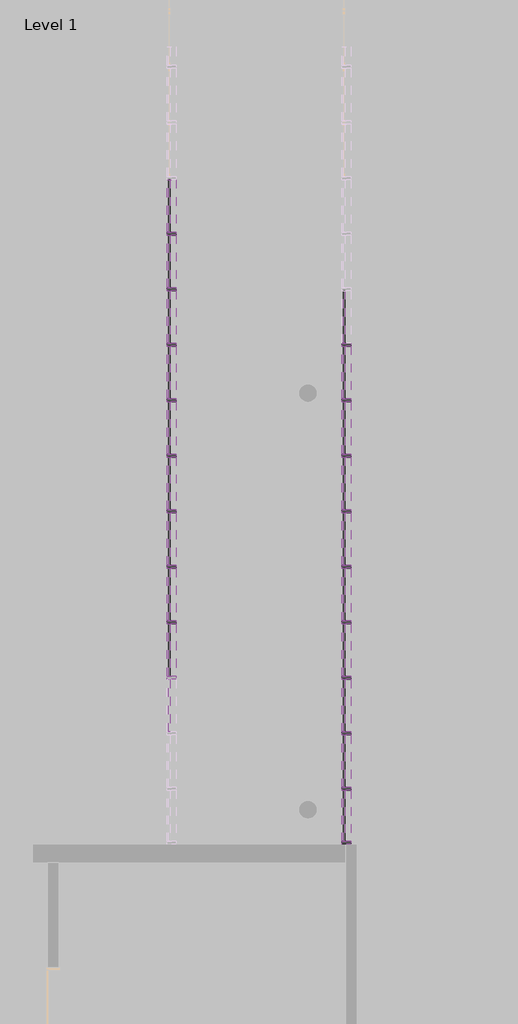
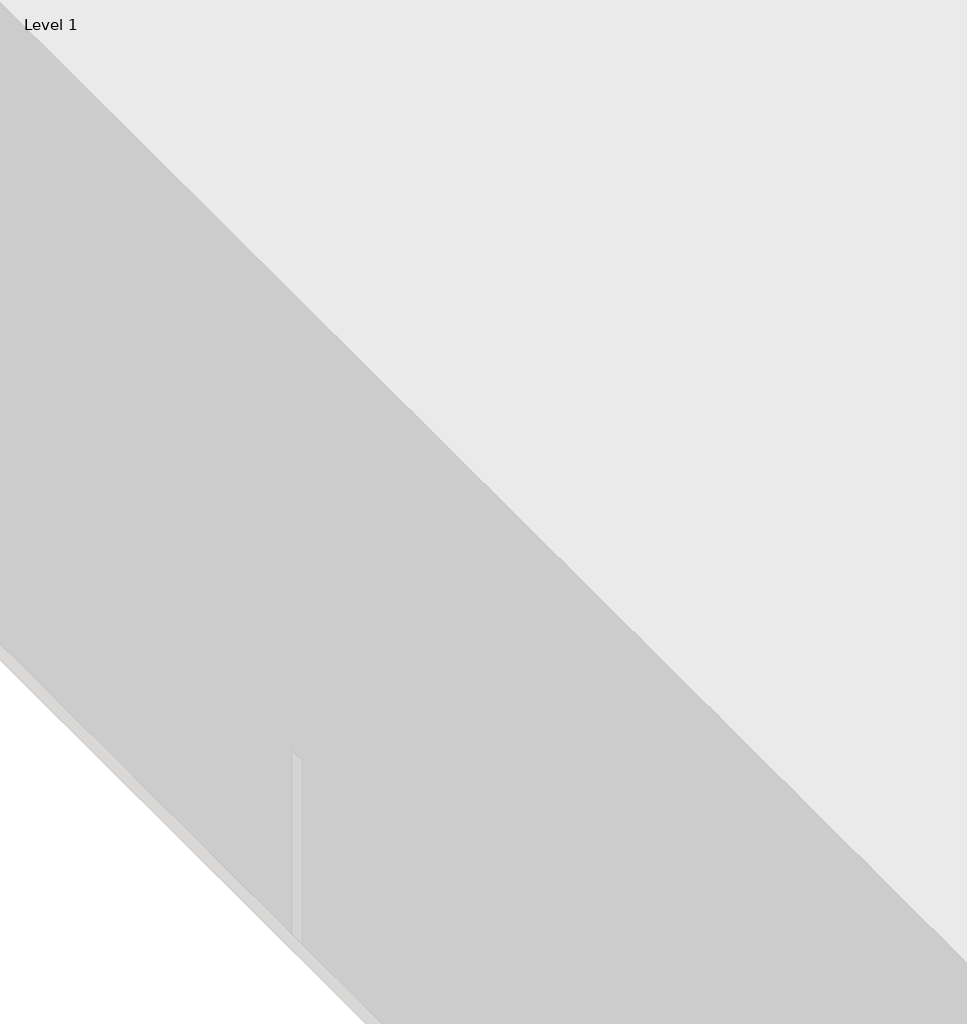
# One storey, part 10 of 18: 90 members, 39 plates.
"""IFC4 building model written with IfcOpenShell, lengths in millimetres."""

from ifc_helpers import new_model, si_unit, origin, place, context, project, spatial, transform, mapped, element, save
from components import rectangular_mullion_50mm_x_150mm_3fa3ad65, rectangular_mullion_50mm_x_150mm_d427b131, rectangular_mullion_50mm_x_150mm_d8a63713, rectangular_mullion_50mm_x_150mm_a28728bf, rectangular_mullion_50mm_x_150mm_a376ce0f, rectangular_mullion_50mm_x_150mm_4471a7bc, rectangular_mullion_50mm_x_150mm_22af440f, rectangular_mullion_50mm_x_150mm_0f59f38f, system_panel_glazed_aa3f7126, system_panel_glazed_37b7c907, system_panel_glazed_7c3f78ea, system_panel_glazed_1f05e993

model = new_model("IFC4")

# Units and contexts
model_context = context("Model", 3, world=origin())
ifc_project = project(units=[si_unit("LENGTHUNIT", "METRE", prefix="MILLI")], contexts=[model_context])

# Site, building, storey
site = spatial("IfcSite", under=ifc_project)
building = spatial("IfcBuilding", under=site)
storey = spatial("IfcBuildingStorey", under=building, Name="Level 1", Elevation=0.0)

# Members
placement = place(None, origin())
rectangular_mullion_50mm_x_150mm_shape = rectangular_mullion_50mm_x_150mm_3fa3ad65(model_context)
element("IfcMember", 1, ObjectType="Rectangular Mullion : 50mm x 150mm", at=placement, inside=storey, context=model_context, shape_type="MappedRepresentation", body=[
    mapped(rectangular_mullion_50mm_x_150mm_shape, transform((-1903.8386635, 5072.5799804, 3550.0), x_axis=(0.0, 0.0, 1.0), y_axis=(-1.0, 0.0, 0.0), z_axis=(0.0, -1.0, 0.0))),
])
rectangular_mullion_50mm_x_150mm_2_shape = rectangular_mullion_50mm_x_150mm_d427b131(model_context)
element("IfcMember", 2, ObjectType="Rectangular Mullion : 50mm x 150mm", at=placement, inside=storey, context=model_context, shape_type="MappedRepresentation", body=[
    mapped(rectangular_mullion_50mm_x_150mm_2_shape, transform((-1903.8386635, 13336.1062962, 3550.0), x_axis=(0.0, 0.0, 1.0), y_axis=(-1.0, 0.0, 0.0), z_axis=(0.0, -1.0, 0.0))),
])
element("IfcMember", 3, ObjectType="Rectangular Mullion : 50mm x 150mm", at=placement, inside=storey, context=model_context, shape_type="MappedRepresentation", body=[
    mapped(rectangular_mullion_50mm_x_150mm_2_shape, transform((-1903.8386635, 12415.1589278, 3550.0), x_axis=(0.0, 0.0, 1.0), y_axis=(-1.0, 0.0, 0.0), z_axis=(0.0, -1.0, 0.0))),
])
element("IfcMember", 4, ObjectType="Rectangular Mullion : 50mm x 150mm", at=placement, inside=storey, context=model_context, shape_type="MappedRepresentation", body=[
    mapped(rectangular_mullion_50mm_x_150mm_2_shape, transform((-1903.8386635, 11494.2115594, 3550.0), x_axis=(0.0, 0.0, 1.0), y_axis=(-1.0, 0.0, 0.0), z_axis=(0.0, -1.0, 0.0))),
])
element("IfcMember", 5, ObjectType="Rectangular Mullion : 50mm x 150mm", at=placement, inside=storey, context=model_context, shape_type="MappedRepresentation", body=[
    mapped(rectangular_mullion_50mm_x_150mm_2_shape, transform((-1903.8386635, 10573.264191, 3550.0), x_axis=(0.0, 0.0, 1.0), y_axis=(-1.0, 0.0, 0.0), z_axis=(0.0, -1.0, 0.0))),
])
element("IfcMember", 6, ObjectType="Rectangular Mullion : 50mm x 150mm", at=placement, inside=storey, context=model_context, shape_type="MappedRepresentation", body=[
    mapped(rectangular_mullion_50mm_x_150mm_2_shape, transform((-1903.8386635, 9652.3168226, 3550.0), x_axis=(0.0, 0.0, 1.0), y_axis=(-1.0, 0.0, 0.0), z_axis=(0.0, -1.0, 0.0))),
])
element("IfcMember", 7, ObjectType="Rectangular Mullion : 50mm x 150mm", at=placement, inside=storey, context=model_context, shape_type="MappedRepresentation", body=[
    mapped(rectangular_mullion_50mm_x_150mm_2_shape, transform((-1903.8386635, 8731.3694542, 3550.0), x_axis=(0.0, 0.0, 1.0), y_axis=(-1.0, 0.0, 0.0), z_axis=(0.0, -1.0, 0.0))),
])
element("IfcMember", 8, ObjectType="Rectangular Mullion : 50mm x 150mm", at=placement, inside=storey, context=model_context, shape_type="MappedRepresentation", body=[
    mapped(rectangular_mullion_50mm_x_150mm_2_shape, transform((-1903.8386635, 7810.4220859, 3550.0), x_axis=(0.0, 0.0, 1.0), y_axis=(-1.0, 0.0, 0.0), z_axis=(0.0, -1.0, 0.0))),
])
element("IfcMember", 9, ObjectType="Rectangular Mullion : 50mm x 150mm", at=placement, inside=storey, context=model_context, shape_type="MappedRepresentation", body=[
    mapped(rectangular_mullion_50mm_x_150mm_2_shape, transform((-1903.8386635, 6889.4747175, 3550.0), x_axis=(0.0, 0.0, 1.0), y_axis=(-1.0, 0.0, 0.0), z_axis=(0.0, -1.0, 0.0))),
])
element("IfcMember", 10, ObjectType="Rectangular Mullion : 50mm x 150mm", at=placement, inside=storey, context=model_context, shape_type="MappedRepresentation", body=[
    mapped(rectangular_mullion_50mm_x_150mm_2_shape, transform((-1903.8386635, 5968.5273491, 3550.0), x_axis=(0.0, 0.0, 1.0), y_axis=(-1.0, 0.0, 0.0), z_axis=(0.0, -1.0, 0.0))),
])
element("IfcMember", 11, ObjectType="Rectangular Mullion : 50mm x 150mm", at=placement, inside=storey, context=model_context, shape_type="MappedRepresentation", body=[
    mapped(rectangular_mullion_50mm_x_150mm_2_shape, transform((-4803.8386635, 15178.001033, 3550.0), x_axis=(0.0, 0.0, 1.0), y_axis=(-1.0, 0.0, 0.0), z_axis=(0.0, -1.0, 0.0))),
])
element("IfcMember", 12, ObjectType="Rectangular Mullion : 50mm x 150mm", at=placement, inside=storey, context=model_context, shape_type="MappedRepresentation", body=[
    mapped(rectangular_mullion_50mm_x_150mm_2_shape, transform((-4803.8386635, 14257.0536646, 3550.0), x_axis=(0.0, 0.0, 1.0), y_axis=(-1.0, 0.0, 0.0), z_axis=(0.0, -1.0, 0.0))),
])
element("IfcMember", 13, ObjectType="Rectangular Mullion : 50mm x 150mm", at=placement, inside=storey, context=model_context, shape_type="MappedRepresentation", body=[
    mapped(rectangular_mullion_50mm_x_150mm_2_shape, transform((-4803.8386635, 13336.1062962, 3550.0), x_axis=(0.0, 0.0, 1.0), y_axis=(-1.0, 0.0, 0.0), z_axis=(0.0, -1.0, 0.0))),
])
element("IfcMember", 14, ObjectType="Rectangular Mullion : 50mm x 150mm", at=placement, inside=storey, context=model_context, shape_type="MappedRepresentation", body=[
    mapped(rectangular_mullion_50mm_x_150mm_2_shape, transform((-4803.8386635, 12415.1589278, 3550.0), x_axis=(0.0, 0.0, 1.0), y_axis=(-1.0, 0.0, 0.0), z_axis=(0.0, -1.0, 0.0))),
])
element("IfcMember", 15, ObjectType="Rectangular Mullion : 50mm x 150mm", at=placement, inside=storey, context=model_context, shape_type="MappedRepresentation", body=[
    mapped(rectangular_mullion_50mm_x_150mm_2_shape, transform((-4803.8386635, 11494.2115594, 3550.0), x_axis=(0.0, 0.0, 1.0), y_axis=(-1.0, 0.0, 0.0), z_axis=(0.0, -1.0, 0.0))),
])
element("IfcMember", 16, ObjectType="Rectangular Mullion : 50mm x 150mm", at=placement, inside=storey, context=model_context, shape_type="MappedRepresentation", body=[
    mapped(rectangular_mullion_50mm_x_150mm_2_shape, transform((-4803.8386635, 10573.264191, 3550.0), x_axis=(0.0, 0.0, 1.0), y_axis=(-1.0, 0.0, 0.0), z_axis=(0.0, -1.0, 0.0))),
])
element("IfcMember", 17, ObjectType="Rectangular Mullion : 50mm x 150mm", at=placement, inside=storey, context=model_context, shape_type="MappedRepresentation", body=[
    mapped(rectangular_mullion_50mm_x_150mm_2_shape, transform((-4803.8386635, 9652.3168226, 3550.0), x_axis=(0.0, 0.0, 1.0), y_axis=(-1.0, 0.0, 0.0), z_axis=(0.0, -1.0, 0.0))),
])
element("IfcMember", 18, ObjectType="Rectangular Mullion : 50mm x 150mm", at=placement, inside=storey, context=model_context, shape_type="MappedRepresentation", body=[
    mapped(rectangular_mullion_50mm_x_150mm_2_shape, transform((-4803.8386635, 8731.3694542, 3550.0), x_axis=(0.0, 0.0, 1.0), y_axis=(-1.0, 0.0, 0.0), z_axis=(0.0, -1.0, 0.0))),
])
element("IfcMember", 19, ObjectType="Rectangular Mullion : 50mm x 150mm", at=placement, inside=storey, context=model_context, shape_type="MappedRepresentation", body=[
    mapped(rectangular_mullion_50mm_x_150mm_2_shape, transform((-1903.8386635, 13286.1062962, 0.0), x_axis=(0.0, 0.0, -1.0), y_axis=(-1.0, 0.0, 0.0), z_axis=(0.0, 1.0, 0.0))),
])
element("IfcMember", 20, ObjectType="Rectangular Mullion : 50mm x 150mm", at=placement, inside=storey, context=model_context, shape_type="MappedRepresentation", body=[
    mapped(rectangular_mullion_50mm_x_150mm_2_shape, transform((-1903.8386635, 12365.1589278, 0.0), x_axis=(0.0, 0.0, -1.0), y_axis=(-1.0, 0.0, 0.0), z_axis=(0.0, 1.0, 0.0))),
])
element("IfcMember", 21, ObjectType="Rectangular Mullion : 50mm x 150mm", at=placement, inside=storey, context=model_context, shape_type="MappedRepresentation", body=[
    mapped(rectangular_mullion_50mm_x_150mm_2_shape, transform((-1903.8386635, 11444.2115594, 0.0), x_axis=(0.0, 0.0, -1.0), y_axis=(-1.0, 0.0, 0.0), z_axis=(0.0, 1.0, 0.0))),
])
element("IfcMember", 22, ObjectType="Rectangular Mullion : 50mm x 150mm", at=placement, inside=storey, context=model_context, shape_type="MappedRepresentation", body=[
    mapped(rectangular_mullion_50mm_x_150mm_2_shape, transform((-1903.8386635, 10523.264191, 0.0), x_axis=(0.0, 0.0, -1.0), y_axis=(-1.0, 0.0, 0.0), z_axis=(0.0, 1.0, 0.0))),
])
element("IfcMember", 23, ObjectType="Rectangular Mullion : 50mm x 150mm", at=placement, inside=storey, context=model_context, shape_type="MappedRepresentation", body=[
    mapped(rectangular_mullion_50mm_x_150mm_2_shape, transform((-1903.8386635, 9602.3168226, 0.0), x_axis=(0.0, 0.0, -1.0), y_axis=(-1.0, 0.0, 0.0), z_axis=(0.0, 1.0, 0.0))),
])
element("IfcMember", 24, ObjectType="Rectangular Mullion : 50mm x 150mm", at=placement, inside=storey, context=model_context, shape_type="MappedRepresentation", body=[
    mapped(rectangular_mullion_50mm_x_150mm_2_shape, transform((-1903.8386635, 8681.3694542, 0.0), x_axis=(0.0, 0.0, -1.0), y_axis=(-1.0, 0.0, 0.0), z_axis=(0.0, 1.0, 0.0))),
])
element("IfcMember", 25, ObjectType="Rectangular Mullion : 50mm x 150mm", at=placement, inside=storey, context=model_context, shape_type="MappedRepresentation", body=[
    mapped(rectangular_mullion_50mm_x_150mm_2_shape, transform((-1903.8386635, 7760.4220859, 0.0), x_axis=(0.0, 0.0, -1.0), y_axis=(-1.0, 0.0, 0.0), z_axis=(0.0, 1.0, 0.0))),
])
element("IfcMember", 26, ObjectType="Rectangular Mullion : 50mm x 150mm", at=placement, inside=storey, context=model_context, shape_type="MappedRepresentation", body=[
    mapped(rectangular_mullion_50mm_x_150mm_2_shape, transform((-1903.8386635, 6839.4747175, 0.0), x_axis=(0.0, 0.0, -1.0), y_axis=(-1.0, 0.0, 0.0), z_axis=(0.0, 1.0, 0.0))),
])
element("IfcMember", 27, ObjectType="Rectangular Mullion : 50mm x 150mm", at=placement, inside=storey, context=model_context, shape_type="MappedRepresentation", body=[
    mapped(rectangular_mullion_50mm_x_150mm_2_shape, transform((-4803.8386635, 15128.001033, 0.0), x_axis=(0.0, 0.0, -1.0), y_axis=(-1.0, 0.0, 0.0), z_axis=(0.0, 1.0, 0.0))),
])
element("IfcMember", 28, ObjectType="Rectangular Mullion : 50mm x 150mm", at=placement, inside=storey, context=model_context, shape_type="MappedRepresentation", body=[
    mapped(rectangular_mullion_50mm_x_150mm_2_shape, transform((-4803.8386635, 14207.0536646, 0.0), x_axis=(0.0, 0.0, -1.0), y_axis=(-1.0, 0.0, 0.0), z_axis=(0.0, 1.0, 0.0))),
])
element("IfcMember", 29, ObjectType="Rectangular Mullion : 50mm x 150mm", at=placement, inside=storey, context=model_context, shape_type="MappedRepresentation", body=[
    mapped(rectangular_mullion_50mm_x_150mm_2_shape, transform((-4803.8386635, 13286.1062962, 0.0), x_axis=(0.0, 0.0, -1.0), y_axis=(-1.0, 0.0, 0.0), z_axis=(0.0, 1.0, 0.0))),
])
element("IfcMember", 30, ObjectType="Rectangular Mullion : 50mm x 150mm", at=placement, inside=storey, context=model_context, shape_type="MappedRepresentation", body=[
    mapped(rectangular_mullion_50mm_x_150mm_2_shape, transform((-4803.8386635, 12365.1589278, 0.0), x_axis=(0.0, 0.0, -1.0), y_axis=(-1.0, 0.0, 0.0), z_axis=(0.0, 1.0, 0.0))),
])
element("IfcMember", 31, ObjectType="Rectangular Mullion : 50mm x 150mm", at=placement, inside=storey, context=model_context, shape_type="MappedRepresentation", body=[
    mapped(rectangular_mullion_50mm_x_150mm_2_shape, transform((-4803.8386635, 11444.2115594, 0.0), x_axis=(0.0, 0.0, -1.0), y_axis=(-1.0, 0.0, 0.0), z_axis=(0.0, 1.0, 0.0))),
])
element("IfcMember", 32, ObjectType="Rectangular Mullion : 50mm x 150mm", at=placement, inside=storey, context=model_context, shape_type="MappedRepresentation", body=[
    mapped(rectangular_mullion_50mm_x_150mm_2_shape, transform((-4803.8386635, 10523.264191, 0.0), x_axis=(0.0, 0.0, -1.0), y_axis=(-1.0, 0.0, 0.0), z_axis=(0.0, 1.0, 0.0))),
])
element("IfcMember", 33, ObjectType="Rectangular Mullion : 50mm x 150mm", at=placement, inside=storey, context=model_context, shape_type="MappedRepresentation", body=[
    mapped(rectangular_mullion_50mm_x_150mm_2_shape, transform((-4803.8386635, 9602.3168226, 0.0), x_axis=(0.0, 0.0, -1.0), y_axis=(-1.0, 0.0, 0.0), z_axis=(0.0, 1.0, 0.0))),
])
element("IfcMember", 34, ObjectType="Rectangular Mullion : 50mm x 150mm", at=placement, inside=storey, context=model_context, shape_type="MappedRepresentation", body=[
    mapped(rectangular_mullion_50mm_x_150mm_2_shape, transform((-4803.8386635, 8681.3694542, 0.0), x_axis=(0.0, 0.0, -1.0), y_axis=(-1.0, 0.0, 0.0), z_axis=(0.0, 1.0, 0.0))),
])
element("IfcMember", 35, ObjectType="Rectangular Mullion : 50mm x 150mm", at=placement, inside=storey, context=model_context, shape_type="MappedRepresentation", body=[
    mapped(rectangular_mullion_50mm_x_150mm_shape, transform((-1903.8386635, 5918.5273491, 0.0), x_axis=(0.0, 0.0, -1.0), y_axis=(-1.0, 0.0, 0.0), z_axis=(0.0, 1.0, 0.0))),
])
rectangular_mullion_50mm_x_150mm_3_shape = rectangular_mullion_50mm_x_150mm_d8a63713(model_context)
element("IfcMember", 36, ObjectType="Rectangular Mullion : 50mm x 150mm", at=placement, inside=storey, context=model_context, shape_type="MappedRepresentation", body=[
    mapped(rectangular_mullion_50mm_x_150mm_3_shape, transform((-1903.8386635, 13311.1062962, 0.0), x_axis=(0.0, -1.0, 0.0), y_axis=(-1.0, 0.0, 0.0), z_axis=(0.0, 0.0, -1.0))),
])
element("IfcMember", 37, ObjectType="Rectangular Mullion : 50mm x 150mm", at=placement, inside=storey, context=model_context, shape_type="MappedRepresentation", body=[
    mapped(rectangular_mullion_50mm_x_150mm_3_shape, transform((-1903.8386635, 12390.1589278, 0.0), x_axis=(0.0, -1.0, 0.0), y_axis=(-1.0, 0.0, 0.0), z_axis=(0.0, 0.0, -1.0))),
])
element("IfcMember", 38, ObjectType="Rectangular Mullion : 50mm x 150mm", at=placement, inside=storey, context=model_context, shape_type="MappedRepresentation", body=[
    mapped(rectangular_mullion_50mm_x_150mm_3_shape, transform((-1903.8386635, 11469.2115594, 0.0), x_axis=(0.0, -1.0, 0.0), y_axis=(-1.0, 0.0, 0.0), z_axis=(0.0, 0.0, -1.0))),
])
element("IfcMember", 39, ObjectType="Rectangular Mullion : 50mm x 150mm", at=placement, inside=storey, context=model_context, shape_type="MappedRepresentation", body=[
    mapped(rectangular_mullion_50mm_x_150mm_3_shape, transform((-1903.8386635, 10548.264191, 0.0), x_axis=(0.0, -1.0, 0.0), y_axis=(-1.0, 0.0, 0.0), z_axis=(0.0, 0.0, -1.0))),
])
element("IfcMember", 40, ObjectType="Rectangular Mullion : 50mm x 150mm", at=placement, inside=storey, context=model_context, shape_type="MappedRepresentation", body=[
    mapped(rectangular_mullion_50mm_x_150mm_3_shape, transform((-1903.8386635, 9627.3168226, 0.0), x_axis=(0.0, -1.0, 0.0), y_axis=(-1.0, 0.0, 0.0), z_axis=(0.0, 0.0, -1.0))),
])
element("IfcMember", 41, ObjectType="Rectangular Mullion : 50mm x 150mm", at=placement, inside=storey, context=model_context, shape_type="MappedRepresentation", body=[
    mapped(rectangular_mullion_50mm_x_150mm_3_shape, transform((-1903.8386635, 8706.3694542, 0.0), x_axis=(0.0, -1.0, 0.0), y_axis=(-1.0, 0.0, 0.0), z_axis=(0.0, 0.0, -1.0))),
])
element("IfcMember", 42, ObjectType="Rectangular Mullion : 50mm x 150mm", at=placement, inside=storey, context=model_context, shape_type="MappedRepresentation", body=[
    mapped(rectangular_mullion_50mm_x_150mm_3_shape, transform((-1903.8386635, 7785.4220859, 0.0), x_axis=(0.0, -1.0, 0.0), y_axis=(-1.0, 0.0, 0.0), z_axis=(0.0, 0.0, -1.0))),
])
element("IfcMember", 43, ObjectType="Rectangular Mullion : 50mm x 150mm", at=placement, inside=storey, context=model_context, shape_type="MappedRepresentation", body=[
    mapped(rectangular_mullion_50mm_x_150mm_3_shape, transform((-1903.8386635, 6864.4747175, 0.0), x_axis=(0.0, -1.0, 0.0), y_axis=(-1.0, 0.0, 0.0), z_axis=(0.0, 0.0, -1.0))),
])
element("IfcMember", 44, ObjectType="Rectangular Mullion : 50mm x 150mm", at=placement, inside=storey, context=model_context, shape_type="MappedRepresentation", body=[
    mapped(rectangular_mullion_50mm_x_150mm_3_shape, transform((-1903.8386635, 5943.5273491, 0.0), x_axis=(0.0, -1.0, 0.0), y_axis=(-1.0, 0.0, 0.0), z_axis=(0.0, 0.0, -1.0))),
])
element("IfcMember", 45, ObjectType="Rectangular Mullion : 50mm x 150mm", at=placement, inside=storey, context=model_context, shape_type="MappedRepresentation", body=[
    mapped(rectangular_mullion_50mm_x_150mm_3_shape, transform((-4803.8386635, 15153.001033, 0.0), x_axis=(0.0, -1.0, 0.0), y_axis=(-1.0, 0.0, 0.0), z_axis=(0.0, 0.0, -1.0))),
])
element("IfcMember", 46, ObjectType="Rectangular Mullion : 50mm x 150mm", at=placement, inside=storey, context=model_context, shape_type="MappedRepresentation", body=[
    mapped(rectangular_mullion_50mm_x_150mm_3_shape, transform((-4803.8386635, 14232.0536646, 0.0), x_axis=(0.0, -1.0, 0.0), y_axis=(-1.0, 0.0, 0.0), z_axis=(0.0, 0.0, -1.0))),
])
element("IfcMember", 47, ObjectType="Rectangular Mullion : 50mm x 150mm", at=placement, inside=storey, context=model_context, shape_type="MappedRepresentation", body=[
    mapped(rectangular_mullion_50mm_x_150mm_3_shape, transform((-4803.8386635, 13311.1062962, 0.0), x_axis=(0.0, -1.0, 0.0), y_axis=(-1.0, 0.0, 0.0), z_axis=(0.0, 0.0, -1.0))),
])
element("IfcMember", 48, ObjectType="Rectangular Mullion : 50mm x 150mm", at=placement, inside=storey, context=model_context, shape_type="MappedRepresentation", body=[
    mapped(rectangular_mullion_50mm_x_150mm_3_shape, transform((-4803.8386635, 12390.1589278, 0.0), x_axis=(0.0, -1.0, 0.0), y_axis=(-1.0, 0.0, 0.0), z_axis=(0.0, 0.0, -1.0))),
])
element("IfcMember", 49, ObjectType="Rectangular Mullion : 50mm x 150mm", at=placement, inside=storey, context=model_context, shape_type="MappedRepresentation", body=[
    mapped(rectangular_mullion_50mm_x_150mm_3_shape, transform((-4803.8386635, 11469.2115594, 0.0), x_axis=(0.0, -1.0, 0.0), y_axis=(-1.0, 0.0, 0.0), z_axis=(0.0, 0.0, -1.0))),
])
element("IfcMember", 50, ObjectType="Rectangular Mullion : 50mm x 150mm", at=placement, inside=storey, context=model_context, shape_type="MappedRepresentation", body=[
    mapped(rectangular_mullion_50mm_x_150mm_3_shape, transform((-4803.8386635, 10548.264191, 0.0), x_axis=(0.0, -1.0, 0.0), y_axis=(-1.0, 0.0, 0.0), z_axis=(0.0, 0.0, -1.0))),
])
element("IfcMember", 51, ObjectType="Rectangular Mullion : 50mm x 150mm", at=placement, inside=storey, context=model_context, shape_type="MappedRepresentation", body=[
    mapped(rectangular_mullion_50mm_x_150mm_3_shape, transform((-4803.8386635, 9627.3168226, 0.0), x_axis=(0.0, -1.0, 0.0), y_axis=(-1.0, 0.0, 0.0), z_axis=(0.0, 0.0, -1.0))),
])
element("IfcMember", 52, ObjectType="Rectangular Mullion : 50mm x 150mm", at=placement, inside=storey, context=model_context, shape_type="MappedRepresentation", body=[
    mapped(rectangular_mullion_50mm_x_150mm_3_shape, transform((-4803.8386635, 8706.3694542, 0.0), x_axis=(0.0, -1.0, 0.0), y_axis=(-1.0, 0.0, 0.0), z_axis=(0.0, 0.0, -1.0))),
])
rectangular_mullion_50mm_x_150mm_4_shape = rectangular_mullion_50mm_x_150mm_a28728bf(model_context)
element("IfcMember", 53, ObjectType="Rectangular Mullion : 50mm x 150mm", at=placement, inside=storey, context=model_context, shape_type="MappedRepresentation", body=[
    mapped(rectangular_mullion_50mm_x_150mm_4_shape, transform((-1903.8386635, 13311.1062962, 2135.0), x_axis=(0.0, -1.0, 0.0), y_axis=(-1.0, 0.0, 0.0), z_axis=(0.0, 0.0, -1.0))),
])
element("IfcMember", 54, ObjectType="Rectangular Mullion : 50mm x 150mm", at=placement, inside=storey, context=model_context, shape_type="MappedRepresentation", body=[
    mapped(rectangular_mullion_50mm_x_150mm_4_shape, transform((-1903.8386635, 12390.1589278, 2135.0), x_axis=(0.0, -1.0, 0.0), y_axis=(-1.0, 0.0, 0.0), z_axis=(0.0, 0.0, -1.0))),
])
element("IfcMember", 55, ObjectType="Rectangular Mullion : 50mm x 150mm", at=placement, inside=storey, context=model_context, shape_type="MappedRepresentation", body=[
    mapped(rectangular_mullion_50mm_x_150mm_4_shape, transform((-1903.8386635, 11469.2115594, 2135.0), x_axis=(0.0, -1.0, 0.0), y_axis=(-1.0, 0.0, 0.0), z_axis=(0.0, 0.0, -1.0))),
])
element("IfcMember", 56, ObjectType="Rectangular Mullion : 50mm x 150mm", at=placement, inside=storey, context=model_context, shape_type="MappedRepresentation", body=[
    mapped(rectangular_mullion_50mm_x_150mm_4_shape, transform((-1903.8386635, 10548.264191, 2135.0), x_axis=(0.0, -1.0, 0.0), y_axis=(-1.0, 0.0, 0.0), z_axis=(0.0, 0.0, -1.0))),
])
element("IfcMember", 57, ObjectType="Rectangular Mullion : 50mm x 150mm", at=placement, inside=storey, context=model_context, shape_type="MappedRepresentation", body=[
    mapped(rectangular_mullion_50mm_x_150mm_4_shape, transform((-1903.8386635, 9627.3168226, 2135.0), x_axis=(0.0, -1.0, 0.0), y_axis=(-1.0, 0.0, 0.0), z_axis=(0.0, 0.0, -1.0))),
])
element("IfcMember", 58, ObjectType="Rectangular Mullion : 50mm x 150mm", at=placement, inside=storey, context=model_context, shape_type="MappedRepresentation", body=[
    mapped(rectangular_mullion_50mm_x_150mm_4_shape, transform((-1903.8386635, 8706.3694542, 2135.0), x_axis=(0.0, -1.0, 0.0), y_axis=(-1.0, 0.0, 0.0), z_axis=(0.0, 0.0, -1.0))),
])
element("IfcMember", 59, ObjectType="Rectangular Mullion : 50mm x 150mm", at=placement, inside=storey, context=model_context, shape_type="MappedRepresentation", body=[
    mapped(rectangular_mullion_50mm_x_150mm_4_shape, transform((-1903.8386635, 7785.4220859, 2135.0), x_axis=(0.0, -1.0, 0.0), y_axis=(-1.0, 0.0, 0.0), z_axis=(0.0, 0.0, -1.0))),
])
element("IfcMember", 60, ObjectType="Rectangular Mullion : 50mm x 150mm", at=placement, inside=storey, context=model_context, shape_type="MappedRepresentation", body=[
    mapped(rectangular_mullion_50mm_x_150mm_4_shape, transform((-1903.8386635, 6864.4747175, 2135.0), x_axis=(0.0, -1.0, 0.0), y_axis=(-1.0, 0.0, 0.0), z_axis=(0.0, 0.0, -1.0))),
])
element("IfcMember", 61, ObjectType="Rectangular Mullion : 50mm x 150mm", at=placement, inside=storey, context=model_context, shape_type="MappedRepresentation", body=[
    mapped(rectangular_mullion_50mm_x_150mm_4_shape, transform((-1903.8386635, 5943.5273491, 2135.0), x_axis=(0.0, -1.0, 0.0), y_axis=(-1.0, 0.0, 0.0), z_axis=(0.0, 0.0, -1.0))),
])
element("IfcMember", 62, ObjectType="Rectangular Mullion : 50mm x 150mm", at=placement, inside=storey, context=model_context, shape_type="MappedRepresentation", body=[
    mapped(rectangular_mullion_50mm_x_150mm_4_shape, transform((-4803.8386635, 15153.001033, 2135.0), x_axis=(0.0, -1.0, 0.0), y_axis=(-1.0, 0.0, 0.0), z_axis=(0.0, 0.0, -1.0))),
])
element("IfcMember", 63, ObjectType="Rectangular Mullion : 50mm x 150mm", at=placement, inside=storey, context=model_context, shape_type="MappedRepresentation", body=[
    mapped(rectangular_mullion_50mm_x_150mm_4_shape, transform((-4803.8386635, 14232.0536646, 2135.0), x_axis=(0.0, -1.0, 0.0), y_axis=(-1.0, 0.0, 0.0), z_axis=(0.0, 0.0, -1.0))),
])
element("IfcMember", 64, ObjectType="Rectangular Mullion : 50mm x 150mm", at=placement, inside=storey, context=model_context, shape_type="MappedRepresentation", body=[
    mapped(rectangular_mullion_50mm_x_150mm_4_shape, transform((-4803.8386635, 13311.1062962, 2135.0), x_axis=(0.0, -1.0, 0.0), y_axis=(-1.0, 0.0, 0.0), z_axis=(0.0, 0.0, -1.0))),
])
element("IfcMember", 65, ObjectType="Rectangular Mullion : 50mm x 150mm", at=placement, inside=storey, context=model_context, shape_type="MappedRepresentation", body=[
    mapped(rectangular_mullion_50mm_x_150mm_4_shape, transform((-4803.8386635, 12390.1589278, 2135.0), x_axis=(0.0, -1.0, 0.0), y_axis=(-1.0, 0.0, 0.0), z_axis=(0.0, 0.0, -1.0))),
])
element("IfcMember", 66, ObjectType="Rectangular Mullion : 50mm x 150mm", at=placement, inside=storey, context=model_context, shape_type="MappedRepresentation", body=[
    mapped(rectangular_mullion_50mm_x_150mm_4_shape, transform((-4803.8386635, 11469.2115594, 2135.0), x_axis=(0.0, -1.0, 0.0), y_axis=(-1.0, 0.0, 0.0), z_axis=(0.0, 0.0, -1.0))),
])
element("IfcMember", 67, ObjectType="Rectangular Mullion : 50mm x 150mm", at=placement, inside=storey, context=model_context, shape_type="MappedRepresentation", body=[
    mapped(rectangular_mullion_50mm_x_150mm_4_shape, transform((-4803.8386635, 10548.264191, 2135.0), x_axis=(0.0, -1.0, 0.0), y_axis=(-1.0, 0.0, 0.0), z_axis=(0.0, 0.0, -1.0))),
])
element("IfcMember", 68, ObjectType="Rectangular Mullion : 50mm x 150mm", at=placement, inside=storey, context=model_context, shape_type="MappedRepresentation", body=[
    mapped(rectangular_mullion_50mm_x_150mm_4_shape, transform((-4803.8386635, 9627.3168226, 2135.0), x_axis=(0.0, -1.0, 0.0), y_axis=(-1.0, 0.0, 0.0), z_axis=(0.0, 0.0, -1.0))),
])
element("IfcMember", 69, ObjectType="Rectangular Mullion : 50mm x 150mm", at=placement, inside=storey, context=model_context, shape_type="MappedRepresentation", body=[
    mapped(rectangular_mullion_50mm_x_150mm_4_shape, transform((-4803.8386635, 8706.3694542, 2135.0), x_axis=(0.0, -1.0, 0.0), y_axis=(-1.0, 0.0, 0.0), z_axis=(0.0, 0.0, -1.0))),
])
element("IfcMember", 70, ObjectType="Rectangular Mullion : 50mm x 150mm", at=placement, inside=storey, context=model_context, shape_type="MappedRepresentation", body=[
    mapped(rectangular_mullion_50mm_x_150mm_4_shape, transform((-4803.8386635, 7785.4220859, 2135.0), x_axis=(0.0, -1.0, 0.0), y_axis=(-1.0, 0.0, 0.0), z_axis=(0.0, 0.0, -1.0))),
])
rectangular_mullion_50mm_x_150mm_5_shape = rectangular_mullion_50mm_x_150mm_a376ce0f(model_context)
element("IfcMember", 71, ObjectType="Rectangular Mullion : 50mm x 150mm", at=placement, inside=storey, context=model_context, shape_type="MappedRepresentation", body=[
    mapped(rectangular_mullion_50mm_x_150mm_5_shape, transform((-1903.8386635, 5072.5799804, 2135.0), x_axis=(0.0, 0.0, 1.0), y_axis=(-1.0, 0.0, 0.0), z_axis=(0.0, -1.0, 0.0))),
])
rectangular_mullion_50mm_x_150mm_6_shape = rectangular_mullion_50mm_x_150mm_4471a7bc(model_context)
element("IfcMember", 72, ObjectType="Rectangular Mullion : 50mm x 150mm", at=placement, inside=storey, context=model_context, shape_type="MappedRepresentation", body=[
    mapped(rectangular_mullion_50mm_x_150mm_6_shape, transform((-1903.8386635, 12415.1589278, 2135.0), x_axis=(0.0, 0.0, 1.0), y_axis=(-1.0, 0.0, 0.0), z_axis=(0.0, -1.0, 0.0))),
])
element("IfcMember", 73, ObjectType="Rectangular Mullion : 50mm x 150mm", at=placement, inside=storey, context=model_context, shape_type="MappedRepresentation", body=[
    mapped(rectangular_mullion_50mm_x_150mm_6_shape, transform((-1903.8386635, 11494.2115594, 2135.0), x_axis=(0.0, 0.0, 1.0), y_axis=(-1.0, 0.0, 0.0), z_axis=(0.0, -1.0, 0.0))),
])
element("IfcMember", 74, ObjectType="Rectangular Mullion : 50mm x 150mm", at=placement, inside=storey, context=model_context, shape_type="MappedRepresentation", body=[
    mapped(rectangular_mullion_50mm_x_150mm_6_shape, transform((-1903.8386635, 10573.264191, 2135.0), x_axis=(0.0, 0.0, 1.0), y_axis=(-1.0, 0.0, 0.0), z_axis=(0.0, -1.0, 0.0))),
])
element("IfcMember", 75, ObjectType="Rectangular Mullion : 50mm x 150mm", at=placement, inside=storey, context=model_context, shape_type="MappedRepresentation", body=[
    mapped(rectangular_mullion_50mm_x_150mm_6_shape, transform((-1903.8386635, 9652.3168226, 2135.0), x_axis=(0.0, 0.0, 1.0), y_axis=(-1.0, 0.0, 0.0), z_axis=(0.0, -1.0, 0.0))),
])
element("IfcMember", 76, ObjectType="Rectangular Mullion : 50mm x 150mm", at=placement, inside=storey, context=model_context, shape_type="MappedRepresentation", body=[
    mapped(rectangular_mullion_50mm_x_150mm_6_shape, transform((-1903.8386635, 8731.3694542, 2135.0), x_axis=(0.0, 0.0, 1.0), y_axis=(-1.0, 0.0, 0.0), z_axis=(0.0, -1.0, 0.0))),
])
element("IfcMember", 77, ObjectType="Rectangular Mullion : 50mm x 150mm", at=placement, inside=storey, context=model_context, shape_type="MappedRepresentation", body=[
    mapped(rectangular_mullion_50mm_x_150mm_6_shape, transform((-1903.8386635, 7810.4220859, 2135.0), x_axis=(0.0, 0.0, 1.0), y_axis=(-1.0, 0.0, 0.0), z_axis=(0.0, -1.0, 0.0))),
])
element("IfcMember", 78, ObjectType="Rectangular Mullion : 50mm x 150mm", at=placement, inside=storey, context=model_context, shape_type="MappedRepresentation", body=[
    mapped(rectangular_mullion_50mm_x_150mm_6_shape, transform((-1903.8386635, 6889.4747175, 2135.0), x_axis=(0.0, 0.0, 1.0), y_axis=(-1.0, 0.0, 0.0), z_axis=(0.0, -1.0, 0.0))),
])
element("IfcMember", 79, ObjectType="Rectangular Mullion : 50mm x 150mm", at=placement, inside=storey, context=model_context, shape_type="MappedRepresentation", body=[
    mapped(rectangular_mullion_50mm_x_150mm_6_shape, transform((-1903.8386635, 5968.5273491, 2135.0), x_axis=(0.0, 0.0, 1.0), y_axis=(-1.0, 0.0, 0.0), z_axis=(0.0, -1.0, 0.0))),
])
element("IfcMember", 80, ObjectType="Rectangular Mullion : 50mm x 150mm", at=placement, inside=storey, context=model_context, shape_type="MappedRepresentation", body=[
    mapped(rectangular_mullion_50mm_x_150mm_6_shape, transform((-4803.8386635, 15178.001033, 2135.0), x_axis=(0.0, 0.0, 1.0), y_axis=(-1.0, 0.0, 0.0), z_axis=(0.0, -1.0, 0.0))),
])
element("IfcMember", 81, ObjectType="Rectangular Mullion : 50mm x 150mm", at=placement, inside=storey, context=model_context, shape_type="MappedRepresentation", body=[
    mapped(rectangular_mullion_50mm_x_150mm_6_shape, transform((-4803.8386635, 14257.0536646, 2135.0), x_axis=(0.0, 0.0, 1.0), y_axis=(-1.0, 0.0, 0.0), z_axis=(0.0, -1.0, 0.0))),
])
element("IfcMember", 82, ObjectType="Rectangular Mullion : 50mm x 150mm", at=placement, inside=storey, context=model_context, shape_type="MappedRepresentation", body=[
    mapped(rectangular_mullion_50mm_x_150mm_6_shape, transform((-4803.8386635, 13336.1062962, 2135.0), x_axis=(0.0, 0.0, 1.0), y_axis=(-1.0, 0.0, 0.0), z_axis=(0.0, -1.0, 0.0))),
])
element("IfcMember", 83, ObjectType="Rectangular Mullion : 50mm x 150mm", at=placement, inside=storey, context=model_context, shape_type="MappedRepresentation", body=[
    mapped(rectangular_mullion_50mm_x_150mm_6_shape, transform((-4803.8386635, 12415.1589278, 2135.0), x_axis=(0.0, 0.0, 1.0), y_axis=(-1.0, 0.0, 0.0), z_axis=(0.0, -1.0, 0.0))),
])
element("IfcMember", 84, ObjectType="Rectangular Mullion : 50mm x 150mm", at=placement, inside=storey, context=model_context, shape_type="MappedRepresentation", body=[
    mapped(rectangular_mullion_50mm_x_150mm_6_shape, transform((-4803.8386635, 11494.2115594, 2135.0), x_axis=(0.0, 0.0, 1.0), y_axis=(-1.0, 0.0, 0.0), z_axis=(0.0, -1.0, 0.0))),
])
element("IfcMember", 85, ObjectType="Rectangular Mullion : 50mm x 150mm", at=placement, inside=storey, context=model_context, shape_type="MappedRepresentation", body=[
    mapped(rectangular_mullion_50mm_x_150mm_6_shape, transform((-4803.8386635, 10573.264191, 2135.0), x_axis=(0.0, 0.0, 1.0), y_axis=(-1.0, 0.0, 0.0), z_axis=(0.0, -1.0, 0.0))),
])
element("IfcMember", 86, ObjectType="Rectangular Mullion : 50mm x 150mm", at=placement, inside=storey, context=model_context, shape_type="MappedRepresentation", body=[
    mapped(rectangular_mullion_50mm_x_150mm_6_shape, transform((-4803.8386635, 9652.3168226, 2135.0), x_axis=(0.0, 0.0, 1.0), y_axis=(-1.0, 0.0, 0.0), z_axis=(0.0, -1.0, 0.0))),
])
element("IfcMember", 87, ObjectType="Rectangular Mullion : 50mm x 150mm", at=placement, inside=storey, context=model_context, shape_type="MappedRepresentation", body=[
    mapped(rectangular_mullion_50mm_x_150mm_6_shape, transform((-4803.8386635, 8731.3694542, 2135.0), x_axis=(0.0, 0.0, 1.0), y_axis=(-1.0, 0.0, 0.0), z_axis=(0.0, -1.0, 0.0))),
])
element("IfcMember", 88, ObjectType="Rectangular Mullion : 50mm x 150mm", at=placement, inside=storey, context=model_context, shape_type="MappedRepresentation", body=[
    mapped(rectangular_mullion_50mm_x_150mm_6_shape, transform((-4803.8386635, 7810.4220859, 2135.0), x_axis=(0.0, 0.0, 1.0), y_axis=(-1.0, 0.0, 0.0), z_axis=(0.0, -1.0, 0.0))),
])
rectangular_mullion_50mm_x_150mm_7_shape = rectangular_mullion_50mm_x_150mm_22af440f(model_context)
element("IfcMember", 89, ObjectType="Rectangular Mullion : 50mm x 150mm", at=placement, inside=storey, context=model_context, shape_type="MappedRepresentation", body=[
    mapped(rectangular_mullion_50mm_x_150mm_7_shape, transform((-1903.8386635, 5022.5799804, 0.0), x_axis=(0.0, -1.0, 0.0), y_axis=(-1.0, 0.0, 0.0), z_axis=(0.0, 0.0, -1.0))),
])
rectangular_mullion_50mm_x_150mm_8_shape = rectangular_mullion_50mm_x_150mm_0f59f38f(model_context)
element("IfcMember", 90, ObjectType="Rectangular Mullion : 50mm x 150mm", at=placement, inside=storey, context=model_context, shape_type="MappedRepresentation", body=[
    mapped(rectangular_mullion_50mm_x_150mm_8_shape, transform((-1903.8386635, 5022.5799804, 2135.0), x_axis=(0.0, -1.0, 0.0), y_axis=(-1.0, 0.0, 0.0), z_axis=(0.0, 0.0, -1.0))),
])

# Plates
system_panel_glazed_shape = system_panel_glazed_aa3f7126(model_context)
element("IfcPlate", 91, ObjectType="System Panel : Glazed", at=placement, inside=storey, context=model_context, shape_type="MappedRepresentation", body=[
    mapped(system_panel_glazed_shape, transform((-1903.8386635, 5495.5536647, 50.0), x_axis=(0.0, -1.0, 0.0), y_axis=(1.0, 0.0, 0.0), z_axis=(0.0, 0.0, 1.0))),
])
system_panel_glazed_2_shape = system_panel_glazed_37b7c907(model_context)
element("IfcPlate", 92, ObjectType="System Panel : Glazed", at=placement, inside=storey, context=model_context, shape_type="MappedRepresentation", body=[
    mapped(system_panel_glazed_2_shape, transform((-1903.8386635, 13771.5799804, 50.0), x_axis=(0.0, -1.0, 0.0), y_axis=(1.0, 0.0, 0.0), z_axis=(0.0, 0.0, 1.0))),
])
element("IfcPlate", 93, ObjectType="System Panel : Glazed", at=placement, inside=storey, context=model_context, shape_type="MappedRepresentation", body=[
    mapped(system_panel_glazed_2_shape, transform((-1903.8386635, 12850.632612, 50.0), x_axis=(0.0, -1.0, 0.0), y_axis=(1.0, 0.0, 0.0), z_axis=(0.0, 0.0, 1.0))),
])
element("IfcPlate", 94, ObjectType="System Panel : Glazed", at=placement, inside=storey, context=model_context, shape_type="MappedRepresentation", body=[
    mapped(system_panel_glazed_2_shape, transform((-1903.8386635, 11929.6852436, 50.0), x_axis=(0.0, -1.0, 0.0), y_axis=(1.0, 0.0, 0.0), z_axis=(0.0, 0.0, 1.0))),
])
element("IfcPlate", 95, ObjectType="System Panel : Glazed", at=placement, inside=storey, context=model_context, shape_type="MappedRepresentation", body=[
    mapped(system_panel_glazed_2_shape, transform((-1903.8386635, 11008.7378752, 50.0), x_axis=(0.0, -1.0, 0.0), y_axis=(1.0, 0.0, 0.0), z_axis=(0.0, 0.0, 1.0))),
])
element("IfcPlate", 96, ObjectType="System Panel : Glazed", at=placement, inside=storey, context=model_context, shape_type="MappedRepresentation", body=[
    mapped(system_panel_glazed_2_shape, transform((-1903.8386635, 10087.7905068, 50.0), x_axis=(0.0, -1.0, 0.0), y_axis=(1.0, 0.0, 0.0), z_axis=(0.0, 0.0, 1.0))),
])
element("IfcPlate", 97, ObjectType="System Panel : Glazed", at=placement, inside=storey, context=model_context, shape_type="MappedRepresentation", body=[
    mapped(system_panel_glazed_2_shape, transform((-1903.8386635, 9166.8431384, 50.0), x_axis=(0.0, -1.0, 0.0), y_axis=(1.0, 0.0, 0.0), z_axis=(0.0, 0.0, 1.0))),
])
element("IfcPlate", 98, ObjectType="System Panel : Glazed", at=placement, inside=storey, context=model_context, shape_type="MappedRepresentation", body=[
    mapped(system_panel_glazed_2_shape, transform((-1903.8386635, 8245.8957701, 50.0), x_axis=(0.0, -1.0, 0.0), y_axis=(1.0, 0.0, 0.0), z_axis=(0.0, 0.0, 1.0))),
])
element("IfcPlate", 99, ObjectType="System Panel : Glazed", at=placement, inside=storey, context=model_context, shape_type="MappedRepresentation", body=[
    mapped(system_panel_glazed_2_shape, transform((-1903.8386635, 7324.9484017, 50.0), x_axis=(0.0, -1.0, 0.0), y_axis=(1.0, 0.0, 0.0), z_axis=(0.0, 0.0, 1.0))),
])
element("IfcPlate", 100, ObjectType="System Panel : Glazed", at=placement, inside=storey, context=model_context, shape_type="MappedRepresentation", body=[
    mapped(system_panel_glazed_2_shape, transform((-1903.8386635, 6404.0010333, 50.0), x_axis=(0.0, -1.0, 0.0), y_axis=(1.0, 0.0, 0.0), z_axis=(0.0, 0.0, 1.0))),
])
element("IfcPlate", 101, ObjectType="System Panel : Glazed", at=placement, inside=storey, context=model_context, shape_type="MappedRepresentation", body=[
    mapped(system_panel_glazed_2_shape, transform((-4803.8386635, 14692.5273488, 50.0), x_axis=(0.0, -1.0, 0.0), y_axis=(1.0, 0.0, 0.0), z_axis=(0.0, 0.0, 1.0))),
])
element("IfcPlate", 102, ObjectType="System Panel : Glazed", at=placement, inside=storey, context=model_context, shape_type="MappedRepresentation", body=[
    mapped(system_panel_glazed_2_shape, transform((-4803.8386635, 13771.5799804, 50.0), x_axis=(0.0, -1.0, 0.0), y_axis=(1.0, 0.0, 0.0), z_axis=(0.0, 0.0, 1.0))),
])
element("IfcPlate", 103, ObjectType="System Panel : Glazed", at=placement, inside=storey, context=model_context, shape_type="MappedRepresentation", body=[
    mapped(system_panel_glazed_2_shape, transform((-4803.8386635, 12850.632612, 50.0), x_axis=(0.0, -1.0, 0.0), y_axis=(1.0, 0.0, 0.0), z_axis=(0.0, 0.0, 1.0))),
])
element("IfcPlate", 104, ObjectType="System Panel : Glazed", at=placement, inside=storey, context=model_context, shape_type="MappedRepresentation", body=[
    mapped(system_panel_glazed_2_shape, transform((-4803.8386635, 11929.6852436, 50.0), x_axis=(0.0, -1.0, 0.0), y_axis=(1.0, 0.0, 0.0), z_axis=(0.0, 0.0, 1.0))),
])
element("IfcPlate", 105, ObjectType="System Panel : Glazed", at=placement, inside=storey, context=model_context, shape_type="MappedRepresentation", body=[
    mapped(system_panel_glazed_2_shape, transform((-4803.8386635, 11008.7378752, 50.0), x_axis=(0.0, -1.0, 0.0), y_axis=(1.0, 0.0, 0.0), z_axis=(0.0, 0.0, 1.0))),
])
element("IfcPlate", 106, ObjectType="System Panel : Glazed", at=placement, inside=storey, context=model_context, shape_type="MappedRepresentation", body=[
    mapped(system_panel_glazed_2_shape, transform((-4803.8386635, 10087.7905068, 50.0), x_axis=(0.0, -1.0, 0.0), y_axis=(1.0, 0.0, 0.0), z_axis=(0.0, 0.0, 1.0))),
])
element("IfcPlate", 107, ObjectType="System Panel : Glazed", at=placement, inside=storey, context=model_context, shape_type="MappedRepresentation", body=[
    mapped(system_panel_glazed_2_shape, transform((-4803.8386635, 9166.8431384, 50.0), x_axis=(0.0, -1.0, 0.0), y_axis=(1.0, 0.0, 0.0), z_axis=(0.0, 0.0, 1.0))),
])
element("IfcPlate", 108, ObjectType="System Panel : Glazed", at=placement, inside=storey, context=model_context, shape_type="MappedRepresentation", body=[
    mapped(system_panel_glazed_2_shape, transform((-4803.8386635, 8245.8957701, 50.0), x_axis=(0.0, -1.0, 0.0), y_axis=(1.0, 0.0, 0.0), z_axis=(0.0, 0.0, 1.0))),
])
element("IfcPlate", 109, ObjectType="System Panel : Glazed", at=placement, inside=storey, context=model_context, shape_type="MappedRepresentation", body=[
    mapped(system_panel_glazed_2_shape, transform((-4803.8386635, 15613.4747172, 50.0), x_axis=(0.0, -1.0, 0.0), y_axis=(1.0, 0.0, 0.0), z_axis=(0.0, 0.0, 1.0))),
])
system_panel_glazed_3_shape = system_panel_glazed_7c3f78ea(model_context)
element("IfcPlate", 110, ObjectType="System Panel : Glazed", at=placement, inside=storey, context=model_context, shape_type="MappedRepresentation", body=[
    mapped(system_panel_glazed_3_shape, transform((-1903.8386635, 5495.5536647, 2160.0), x_axis=(0.0, -1.0, 0.0), y_axis=(1.0, 0.0, 0.0), z_axis=(0.0, 0.0, 1.0))),
])
system_panel_glazed_4_shape = system_panel_glazed_1f05e993(model_context)
element("IfcPlate", 111, ObjectType="System Panel : Glazed", at=placement, inside=storey, context=model_context, shape_type="MappedRepresentation", body=[
    mapped(system_panel_glazed_4_shape, transform((-1903.8386635, 13771.5799804, 2160.0), x_axis=(0.0, -1.0, 0.0), y_axis=(1.0, 0.0, 0.0), z_axis=(0.0, 0.0, 1.0))),
])
element("IfcPlate", 112, ObjectType="System Panel : Glazed", at=placement, inside=storey, context=model_context, shape_type="MappedRepresentation", body=[
    mapped(system_panel_glazed_4_shape, transform((-1903.8386635, 12850.632612, 2160.0), x_axis=(0.0, -1.0, 0.0), y_axis=(1.0, 0.0, 0.0), z_axis=(0.0, 0.0, 1.0))),
])
element("IfcPlate", 113, ObjectType="System Panel : Glazed", at=placement, inside=storey, context=model_context, shape_type="MappedRepresentation", body=[
    mapped(system_panel_glazed_4_shape, transform((-1903.8386635, 11929.6852436, 2160.0), x_axis=(0.0, -1.0, 0.0), y_axis=(1.0, 0.0, 0.0), z_axis=(0.0, 0.0, 1.0))),
])
element("IfcPlate", 114, ObjectType="System Panel : Glazed", at=placement, inside=storey, context=model_context, shape_type="MappedRepresentation", body=[
    mapped(system_panel_glazed_4_shape, transform((-1903.8386635, 11008.7378752, 2160.0), x_axis=(0.0, -1.0, 0.0), y_axis=(1.0, 0.0, 0.0), z_axis=(0.0, 0.0, 1.0))),
])
element("IfcPlate", 115, ObjectType="System Panel : Glazed", at=placement, inside=storey, context=model_context, shape_type="MappedRepresentation", body=[
    mapped(system_panel_glazed_4_shape, transform((-1903.8386635, 10087.7905068, 2160.0), x_axis=(0.0, -1.0, 0.0), y_axis=(1.0, 0.0, 0.0), z_axis=(0.0, 0.0, 1.0))),
])
element("IfcPlate", 116, ObjectType="System Panel : Glazed", at=placement, inside=storey, context=model_context, shape_type="MappedRepresentation", body=[
    mapped(system_panel_glazed_4_shape, transform((-1903.8386635, 9166.8431384, 2160.0), x_axis=(0.0, -1.0, 0.0), y_axis=(1.0, 0.0, 0.0), z_axis=(0.0, 0.0, 1.0))),
])
element("IfcPlate", 117, ObjectType="System Panel : Glazed", at=placement, inside=storey, context=model_context, shape_type="MappedRepresentation", body=[
    mapped(system_panel_glazed_4_shape, transform((-1903.8386635, 8245.8957701, 2160.0), x_axis=(0.0, -1.0, 0.0), y_axis=(1.0, 0.0, 0.0), z_axis=(0.0, 0.0, 1.0))),
])
element("IfcPlate", 118, ObjectType="System Panel : Glazed", at=placement, inside=storey, context=model_context, shape_type="MappedRepresentation", body=[
    mapped(system_panel_glazed_4_shape, transform((-1903.8386635, 7324.9484017, 2160.0), x_axis=(0.0, -1.0, 0.0), y_axis=(1.0, 0.0, 0.0), z_axis=(0.0, 0.0, 1.0))),
])
element("IfcPlate", 119, ObjectType="System Panel : Glazed", at=placement, inside=storey, context=model_context, shape_type="MappedRepresentation", body=[
    mapped(system_panel_glazed_4_shape, transform((-1903.8386635, 6404.0010333, 2160.0), x_axis=(0.0, -1.0, 0.0), y_axis=(1.0, 0.0, 0.0), z_axis=(0.0, 0.0, 1.0))),
])
element("IfcPlate", 120, ObjectType="System Panel : Glazed", at=placement, inside=storey, context=model_context, shape_type="MappedRepresentation", body=[
    mapped(system_panel_glazed_4_shape, transform((-4803.8386635, 15613.4747172, 2160.0), x_axis=(0.0, -1.0, 0.0), y_axis=(1.0, 0.0, 0.0), z_axis=(0.0, 0.0, 1.0))),
])
element("IfcPlate", 121, ObjectType="System Panel : Glazed", at=placement, inside=storey, context=model_context, shape_type="MappedRepresentation", body=[
    mapped(system_panel_glazed_4_shape, transform((-4803.8386635, 14692.5273488, 2160.0), x_axis=(0.0, -1.0, 0.0), y_axis=(1.0, 0.0, 0.0), z_axis=(0.0, 0.0, 1.0))),
])
element("IfcPlate", 122, ObjectType="System Panel : Glazed", at=placement, inside=storey, context=model_context, shape_type="MappedRepresentation", body=[
    mapped(system_panel_glazed_4_shape, transform((-4803.8386635, 13771.5799804, 2160.0), x_axis=(0.0, -1.0, 0.0), y_axis=(1.0, 0.0, 0.0), z_axis=(0.0, 0.0, 1.0))),
])
element("IfcPlate", 123, ObjectType="System Panel : Glazed", at=placement, inside=storey, context=model_context, shape_type="MappedRepresentation", body=[
    mapped(system_panel_glazed_4_shape, transform((-4803.8386635, 12850.632612, 2160.0), x_axis=(0.0, -1.0, 0.0), y_axis=(1.0, 0.0, 0.0), z_axis=(0.0, 0.0, 1.0))),
])
element("IfcPlate", 124, ObjectType="System Panel : Glazed", at=placement, inside=storey, context=model_context, shape_type="MappedRepresentation", body=[
    mapped(system_panel_glazed_4_shape, transform((-4803.8386635, 11929.6852436, 2160.0), x_axis=(0.0, -1.0, 0.0), y_axis=(1.0, 0.0, 0.0), z_axis=(0.0, 0.0, 1.0))),
])
element("IfcPlate", 125, ObjectType="System Panel : Glazed", at=placement, inside=storey, context=model_context, shape_type="MappedRepresentation", body=[
    mapped(system_panel_glazed_4_shape, transform((-4803.8386635, 11008.7378752, 2160.0), x_axis=(0.0, -1.0, 0.0), y_axis=(1.0, 0.0, 0.0), z_axis=(0.0, 0.0, 1.0))),
])
element("IfcPlate", 126, ObjectType="System Panel : Glazed", at=placement, inside=storey, context=model_context, shape_type="MappedRepresentation", body=[
    mapped(system_panel_glazed_4_shape, transform((-4803.8386635, 10087.7905068, 2160.0), x_axis=(0.0, -1.0, 0.0), y_axis=(1.0, 0.0, 0.0), z_axis=(0.0, 0.0, 1.0))),
])
element("IfcPlate", 127, ObjectType="System Panel : Glazed", at=placement, inside=storey, context=model_context, shape_type="MappedRepresentation", body=[
    mapped(system_panel_glazed_4_shape, transform((-4803.8386635, 9166.8431384, 2160.0), x_axis=(0.0, -1.0, 0.0), y_axis=(1.0, 0.0, 0.0), z_axis=(0.0, 0.0, 1.0))),
])
element("IfcPlate", 128, ObjectType="System Panel : Glazed", at=placement, inside=storey, context=model_context, shape_type="MappedRepresentation", body=[
    mapped(system_panel_glazed_4_shape, transform((-4803.8386635, 8245.8957701, 2160.0), x_axis=(0.0, -1.0, 0.0), y_axis=(1.0, 0.0, 0.0), z_axis=(0.0, 0.0, 1.0))),
])
element("IfcPlate", 129, ObjectType="System Panel : Glazed", at=placement, inside=storey, context=model_context, shape_type="MappedRepresentation", body=[
    mapped(system_panel_glazed_4_shape, transform((-4803.8386635, 7324.9484017, 2160.0), x_axis=(0.0, -1.0, 0.0), y_axis=(1.0, 0.0, 0.0), z_axis=(0.0, 0.0, 1.0))),
])

save(model, "model.ifc")
